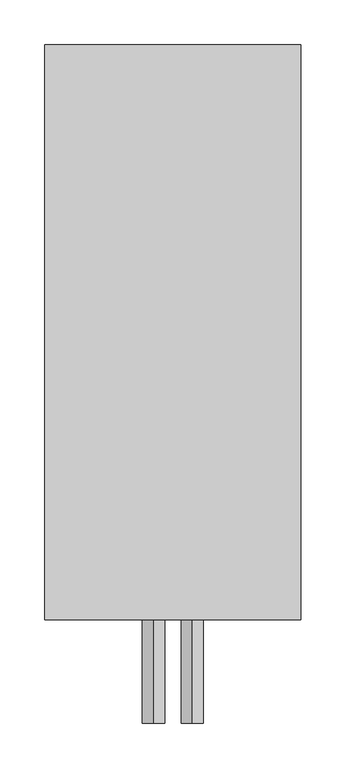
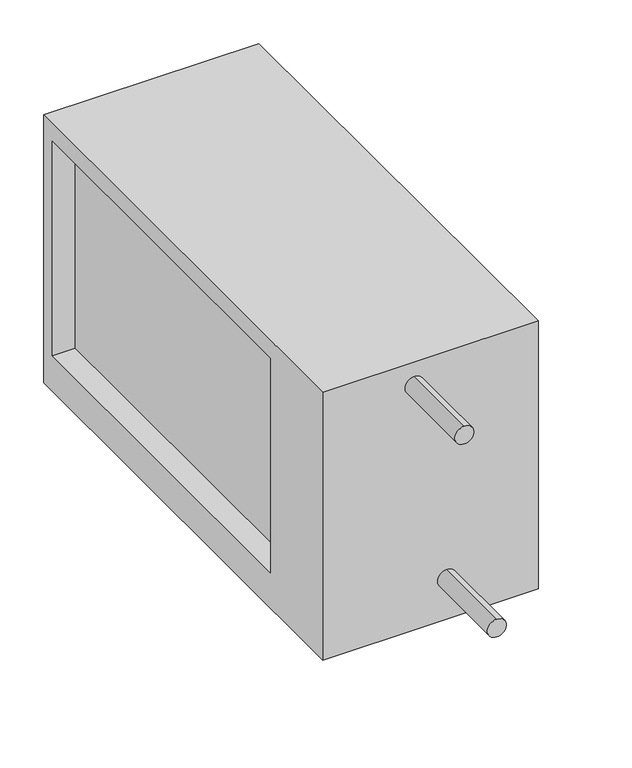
"""IFC4 building model written with IfcOpenShell, lengths in millimetres: proxy geometry, СВ_ВоздухоохладительВодяной_КанальныйПрямоугольный_200-1000_SPC-W : SPC-W-500x300-R."""

from ifc_helpers import new_model, si_unit, point, frame, frame_2d, origin, place, context, project, spatial, polyline, circle_curve, trimmed, segment, composite_curve, outline, extrude, source, transform, mapped, element, save


def mechanical_equipment_66c2cfd7(model_context):
    return source(origin(), model_context, "Body", "SweptSolid", [
        extrude(outline(polyline([(-370.0, -200.0), (-370.0, 175.0), (270.0, 175.0), (270.0, -200.0), (-370.0, -200.0)]), holes=[polyline([(-250.0, 150.0), (-250.0, -150.0), (250.0, -150.0), (250.0, 150.0), (-250.0, 150.0)])]), frame((-142.5, 0.0, 0.0), z_axis=(1.0, 0.0, 0.0), x_axis=(0.0, 1.0, 0.0)), (0.0, 0.0, 1.0), 285.0),
        extrude(outline(composite_curve([segment(trimmed(circle_curve(frame_2d((-142.5, 21.5)), 12.5), [point((-130.0, 21.5))], [point((-155.0, 21.5))], False, "CARTESIAN"), True, "CONTINUOUS"), segment(trimmed(circle_curve(frame_2d((-142.5, 21.5)), 12.5), [point((-155.0, 21.5))], [point((-130.0, 21.5))], False, "CARTESIAN"), True, "CONTINUOUS")], self_intersect=False)), frame((0.0, -485.0, 0.0), z_axis=(0.0, 1.0, 0.0), x_axis=(0.0, 0.0, 1.0)), (0.0, 0.0, 1.0), 115.0),
        extrude(outline(composite_curve([segment(trimmed(circle_curve(frame_2d((142.5, -21.5)), 12.5), [point((155.0, -21.5))], [point((130.0, -21.5))], False, "CARTESIAN"), True, "CONTINUOUS"), segment(trimmed(circle_curve(frame_2d((142.5, -21.5)), 12.5), [point((130.0, -21.5))], [point((155.0, -21.5))], False, "CARTESIAN"), True, "CONTINUOUS")], self_intersect=False)), frame((0.0, -485.0, 0.0), z_axis=(0.0, 1.0, 0.0), x_axis=(0.0, 0.0, 1.0)), (0.0, 0.0, 1.0), 115.0),
        extrude(outline(composite_curve([segment(trimmed(circle_curve(frame_2d((0.0, -330.0)), 11.0), [point((-11.0, -330.0))], [point((11.0, -330.0))], False, "CARTESIAN"), True, "CONTINUOUS"), segment(trimmed(circle_curve(frame_2d((0.0, -330.0)), 11.0), [point((11.0, -330.0))], [point((-11.0, -330.0))], False, "CARTESIAN"), True, "CONTINUOUS")], self_intersect=False)), frame((0.0, 0.0, -220.0), z_axis=(0.0, 0.0, 1.0), x_axis=(1.0, 0.0, 0.0)), (0.0, 0.0, 1.0), 20.0),
        extrude(outline(polyline([(112.5, 250.0), (112.5, -250.0), (-112.5, -250.0), (-112.5, 250.0), (112.5, 250.0)])), frame((0.0, 0.0, -150.0), z_axis=(0.0, 0.0, 1.0), x_axis=(1.0, 0.0, 0.0)), (0.0, 0.0, 1.0), 300.0),
    ])


if __name__ == "__main__":
    model = new_model("IFC4")
    model_context = context("Model", 3, world=origin())
    ifc_project = project(units=[si_unit("LENGTHUNIT", "METRE", prefix="MILLI")], contexts=[model_context])
    site = spatial("IfcSite", under=ifc_project)
    building = spatial("IfcBuilding", under=site)
    placement = place(None, origin())
    mechanical_equipment_shape = mechanical_equipment_66c2cfd7(model_context)
    element("IfcBuildingElementProxy", 1, Name="СВ_ВоздухоохладительВодяной_КанальныйПрямоугольный_200-1000_SPC-W : SPC-W-500x300-R", ObjectType="СВ_ВоздухоохладительВодяной_КанальныйПрямоугольный_200-1000_SPC-W : SPC-W-500x300-R", at=placement, inside=building, context=model_context, shape_type="MappedRepresentation", body=[
        mapped(mechanical_equipment_shape, transform((0.0, 0.0, 0.0), x_axis=(1.0, 0.0, 0.0), y_axis=(0.0, 1.0, 0.0), z_axis=(0.0, 0.0, 1.0))),
    ])
    save(model, "model.ifc")
